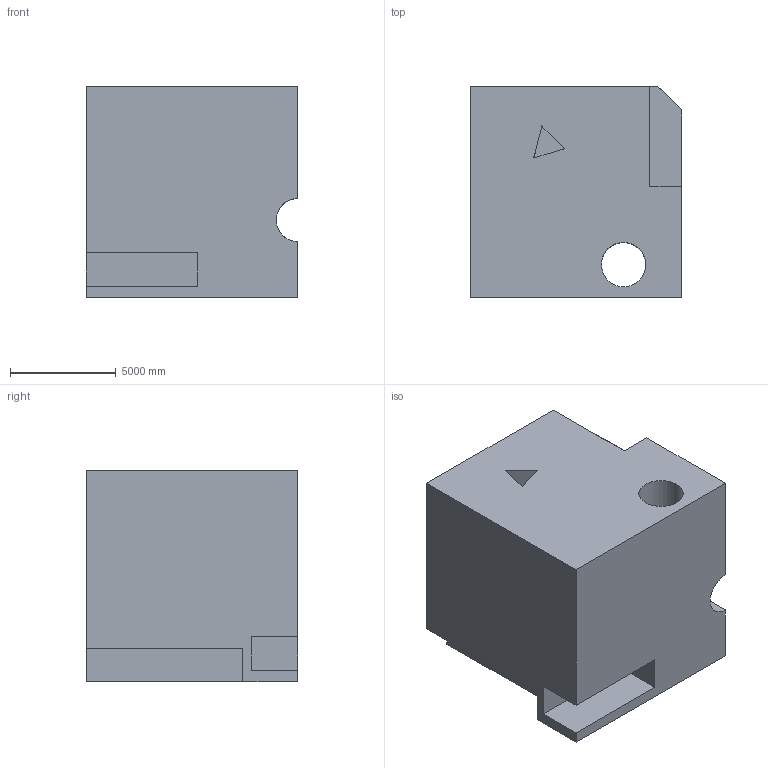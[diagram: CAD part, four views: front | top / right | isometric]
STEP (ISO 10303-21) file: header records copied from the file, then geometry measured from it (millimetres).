
FILE_DESCRIPTION (( 'STEP AP203' ), '1' );
FILE_NAME ('786.STEP', '2022-07-29T13:12:13', ( 'user' ), ( '' ), 'SwSTEP 2.0', 'SolidWorks 2021', '' );
FILE_SCHEMA (( 'CONFIG_CONTROL_DESIGN' ));
Length unit declared in the file: centimetre
Products named in the file (1): 786
Bounding box: 10000 x 10000 x 10000 mm (x, y, z)
Volume: 888632247743.1 mm3; surface area: 724017783.2 mm2
Topology: 1 solids, 1 shells, 28 faces, 75 edges, 50 vertices
Faces by surface type: plane 25, cylinder 3
Entity records: 945 total; most frequent: CARTESIAN_POINT 157, ORIENTED_EDGE 150, DIRECTION 137, EDGE_CURVE 75, LINE 69, VECTOR 69, VERTEX_POINT 50, AXIS2_PLACEMENT_3D 34
